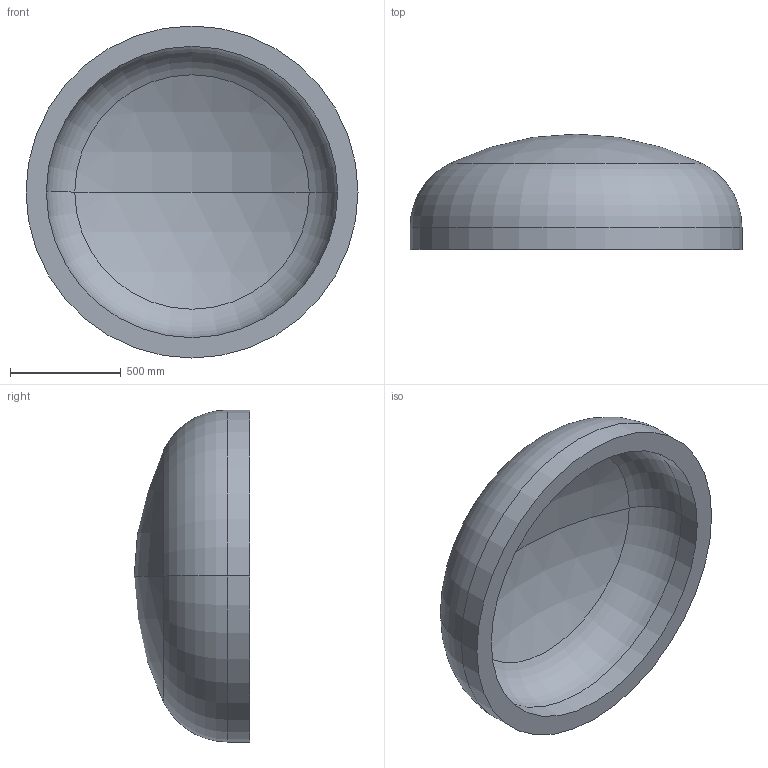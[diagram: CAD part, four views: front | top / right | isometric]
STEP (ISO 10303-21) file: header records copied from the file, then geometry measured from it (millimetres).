
FILE_DESCRIPTION (( 'STEP AP203' ), '1' );
FILE_NAME ('DIN 28013 Korbbogenform_-_Boden DIN 28013 - 1500 x 100 - I - s=92.step', '2016-07-01T10:56:38', ( '' ), ( '' ), 'SwSTEP 2.0', 'SolidWorks 2013', '' );
FILE_SCHEMA (( 'CONFIG_CONTROL_DESIGN' ));
Length unit declared in the file: millimetre
Products named in the file (1): DIN 28013 Korbbogenform_-_Boden DIN 28013 - 1500 x 100 - I - s=92
Bounding box: 1500 x 521.53 x 1500 mm (x, y, z)
Volume: 248759879.7 mm3; surface area: 5832498.5 mm2
Topology: 1 solids, 1 shells, 13 faces, 24 edges, 14 vertices
Faces by surface type: torus 4, cylinder 4, sphere 4, plane 1
Entity records: 407 total; most frequent: DIRECTION 72, CARTESIAN_POINT 52, ORIENTED_EDGE 48, AXIS2_PLACEMENT_3D 34, EDGE_CURVE 24, CIRCLE 20, VERTEX_POINT 14, EDGE_LOOP 14
